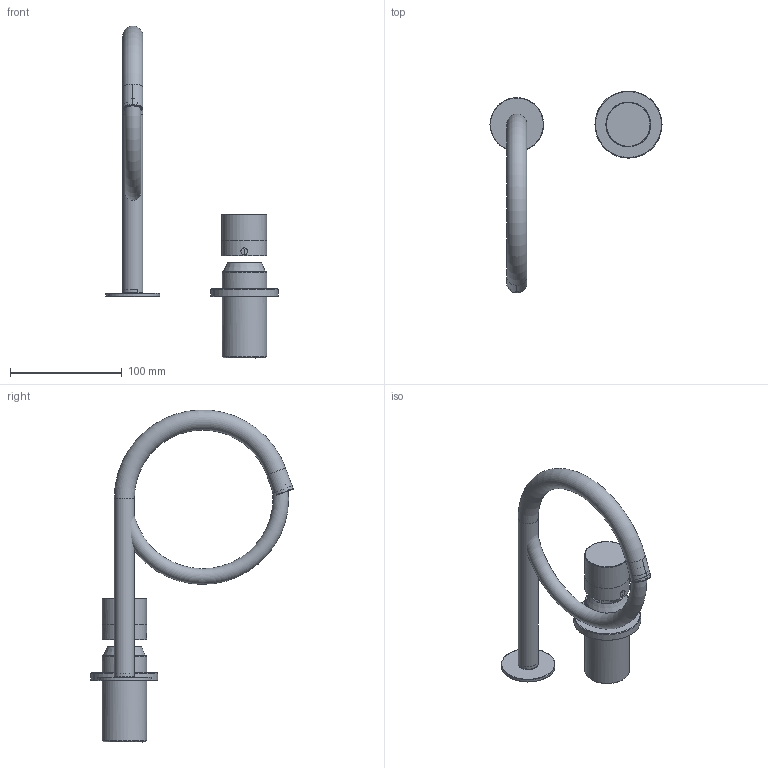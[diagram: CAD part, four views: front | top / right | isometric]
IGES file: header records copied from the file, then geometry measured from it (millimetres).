
Start section: Data from Parasolid IGES Translator 22.0.50, Copyright(c) 2006 Siemens P LM Software. All Rights Reserved.
Global section: file name: noorth-taps-H 24 D 17,5 W 14_2563-5841.igs; native system: By Siemens PLM Incorporated; preprocessor: XPlus GENERIC/IGES 22.0.50; author: Noname; organization: Noname; date: 20260215.164515; units: metre
Bounding box: 153.86 x 180.92 x 296.94 mm (x, y, z)
Volume: 237585.2 mm3; surface area: 77628.9 mm2
Topology: 6 solids, 6 shells, 432 faces, 1018 edges, 728 vertices
Faces by surface type: plane 173, cylinder 152, bspline 79, cone 20, torus 6, extrusion 1, revolution 1
Full cylindrical faces by diameter (mm): 1 x52, 13.5 x1, 14 x1, 14.5 x1, 15 x1, 16.5 x2, 18 x1, 23.6 x1, 30 x1, 35.2 x1, 36 x1, 37 x1, 40 x4, 48 x1, 60 x1
